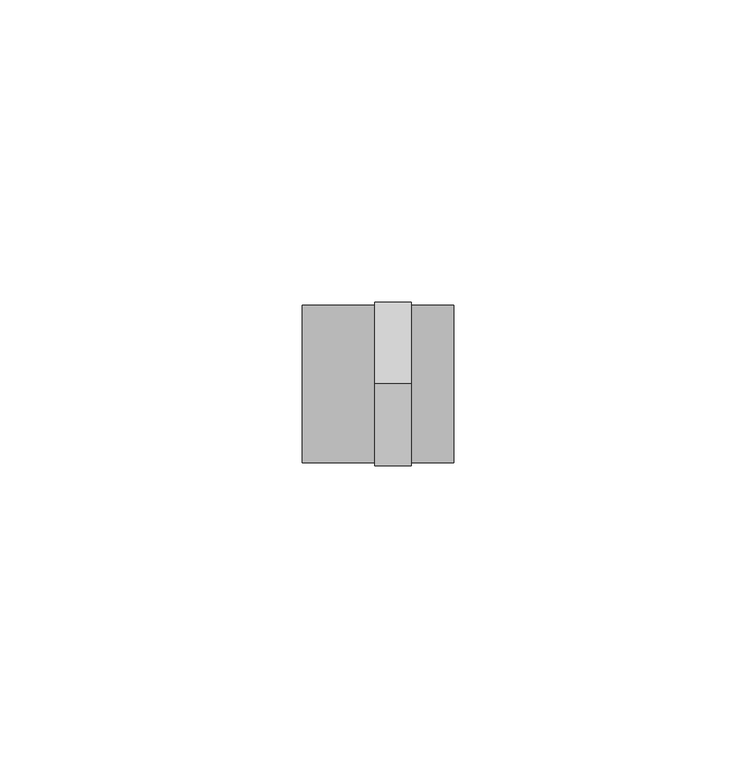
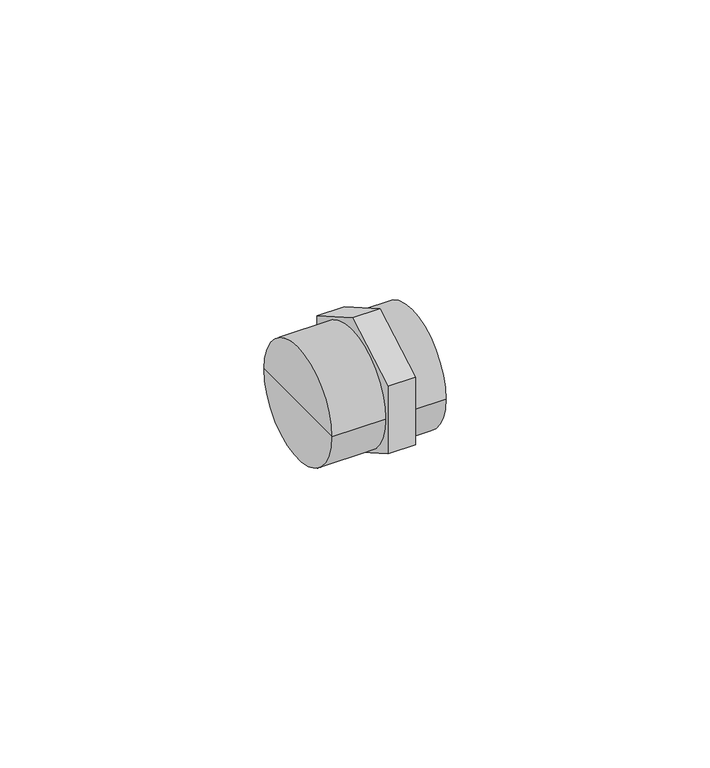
"""IFC4 building model written with IfcOpenShell, lengths in millimetres: pipe fitting geometry, NLRS_50_PIF_UN_adapter Euroconus, met buitendraad_geb : DN15-20/ G3/4'' / d20-26/ G3/4''."""

import ifcopenshell
import ifcopenshell.guid

model = None  # the IFC model being written
_history = None  # IfcOwnerHistory: only IFC2X3 demands one
_inside = {}  # id of a spatial element -> (the spatial element, [elements in it])
_under = {}  # id of a project, library or spatial element -> (it, [spatial elements below it])
_declared = {}  # id of a project -> (the project, [libraries it declares])
_typed = {}  # id of a type object -> (the type object, [elements of that type])
_made_of = {}  # id of a material, layer set ... -> (it, [elements and type objects made of it])


def new_model(schema):
    """Start an empty IFC model of exactly this schema.

    Asked for "IFC4X3", IfcOpenShell would pick the latest addendum, in which some entities
    have other attributes; the version numbers below select the first issue.
    IFC2X3 requires an IfcOwnerHistory on every rooted entity: one is made here for all.
    """
    global model, _history
    if schema == "IFC4X3":
        model = ifcopenshell.file(schema_version=(4, 3, 0, 0))
    else:
        model = ifcopenshell.file(schema=schema)
    _inside.clear()
    _under.clear()
    _declared.clear()
    _typed.clear()
    _made_of.clear()
    _history = None
    if model.schema == "IFC2X3":
        org = make("IfcOrganization", Name="unknown")
        user = make(
            "IfcPersonAndOrganization",
            ThePerson=make("IfcPerson", FamilyName="unknown"),
            TheOrganization=org,
        )
        app = make(
            "IfcApplication",
            ApplicationDeveloper=org,
            Version="unknown",
            ApplicationFullName="unknown",
            ApplicationIdentifier="unknown",
        )
        _history = make(
            "IfcOwnerHistory",
            OwningUser=user,
            OwningApplication=app,
            ChangeAction="ADDED",
            CreationDate=0,
        )
    return model


def make(cls, **values):
    """One entity of the class cls with the attributes given. An attribute that is None is left unset."""
    return model.create_entity(
        cls, **{name: value for name, value in values.items() if value is not None}
    )


def rooted(cls, **values):
    """An entity with a GlobalId (a new one), such as an element, a storey or a relation."""
    return make(cls, GlobalId=ifcopenshell.guid.new(), OwnerHistory=_history, **values)


def si_unit(unit_type, name, prefix=None):
    """IfcSIUnit, for example si_unit("LENGTHUNIT", "METRE", prefix="MILLI")."""
    return make("IfcSIUnit", UnitType=unit_type, Prefix=prefix, Name=name)


def assignment(units):
    """IfcUnitAssignment: the units of a project."""
    return None if units is None else make("IfcUnitAssignment", Units=units)


def point(xyz):
    """IfcCartesianPoint."""
    return None if xyz is None else make("IfcCartesianPoint", Coordinates=xyz)


def direction(xyz):
    """IfcDirection."""
    return None if xyz is None else make("IfcDirection", DirectionRatios=xyz)


def frame(location, z_axis=None, x_axis=None):
    """IfcAxis2Placement3D, a coordinate frame: its origin and axes. An axis left out is left unset."""
    return make(
        "IfcAxis2Placement3D",
        Location=point(location),
        Axis=direction(z_axis),
        RefDirection=direction(x_axis),
    )


def origin():
    """The frame at (0, 0, 0) with its axes left unset."""
    return frame((0.0, 0.0, 0.0))


def place(relative_to, where):
    """IfcLocalPlacement: puts the frame where relative to a parent placement (None: the world)."""
    return make(
        "IfcLocalPlacement", PlacementRelTo=relative_to, RelativePlacement=where
    )


def context(
    kind, dimensions, precision=None, world=None, true_north=None, identifier=None
):
    """IfcGeometricRepresentationContext, for example the 3D "Model" context."""
    return make(
        "IfcGeometricRepresentationContext",
        ContextIdentifier=identifier,
        ContextType=kind,
        CoordinateSpaceDimension=dimensions,
        Precision=precision,
        WorldCoordinateSystem=world,
        TrueNorth=true_north,
    )


def project(units=None, contexts=None):
    """IfcProject with its units and contexts."""
    return rooted(
        "IfcProject",
        Name="project",
        RepresentationContexts=contexts,
        UnitsInContext=assignment(units),
    )


def spatial(cls, under=None, at=None, **own):
    """A site, building, storey or space (cls), placed at a placement, below another one or the project."""
    s = rooted(cls, ObjectPlacement=at, **own)
    if under is not None:
        _under.setdefault(under.id(), (under, []))[1].append(s)
    return s


def polyline(points):
    """IfcPolyline through the points."""
    return make("IfcPolyline", Points=[point(p) for p in points])


def circle_curve(where, radius):
    """IfcCircle in the frame where."""
    return make("IfcCircle", Position=where, Radius=radius)


def outline(outer, holes=None, kind="AREA"):
    """IfcArbitraryClosedProfileDef: a profile drawn as a closed curve; with holes, ...WithVoids."""
    if holes is None:
        return make("IfcArbitraryClosedProfileDef", ProfileType=kind, OuterCurve=outer)
    return make(
        "IfcArbitraryProfileDefWithVoids",
        ProfileType=kind,
        OuterCurve=outer,
        InnerCurves=holes,
    )


def extrude(swept, where, along, depth):
    """IfcExtrudedAreaSolid: the profile swept, set in the frame where, extruded along a direction by depth."""
    return make(
        "IfcExtrudedAreaSolid",
        SweptArea=swept,
        Position=where,
        ExtrudedDirection=direction(along),
        Depth=depth,
    )


def shape(context_of_items, identifier, shape_type, items):
    """IfcShapeRepresentation: the items that make up one representation, for example the "Body"."""
    return make(
        "IfcShapeRepresentation",
        ContextOfItems=context_of_items,
        RepresentationIdentifier=identifier,
        RepresentationType=shape_type,
        Items=items,
    )


def source(mapping_origin, context_of_items, identifier, shape_type, items):
    """IfcRepresentationMap: a shape defined once, which mapped items show again and again."""
    return make(
        "IfcRepresentationMap",
        MappingOrigin=mapping_origin,
        MappedRepresentation=shape(context_of_items, identifier, shape_type, items),
    )


def transform(
    local_origin,
    x_axis=None,
    y_axis=None,
    z_axis=None,
    scale=None,
    scale2=None,
    scale3=None,
    uniform=True,
):
    """IfcCartesianTransformationOperator3D, or its non-uniform kind. x_axis, y_axis, z_axis: its Axis1, 2, 3."""
    if uniform:
        return make(
            "IfcCartesianTransformationOperator3D",
            Axis1=direction(x_axis),
            Axis2=direction(y_axis),
            LocalOrigin=point(local_origin),
            Scale=scale,
            Axis3=direction(z_axis),
        )
    return make(
        "IfcCartesianTransformationOperator3DnonUniform",
        Axis1=direction(x_axis),
        Axis2=direction(y_axis),
        LocalOrigin=point(local_origin),
        Scale=scale,
        Axis3=direction(z_axis),
        Scale2=scale2,
        Scale3=scale3,
    )


def mapped(mapping_source, mapping_target):
    """IfcMappedItem: shows the shape of a source again, moved by a transform."""
    return make(
        "IfcMappedItem", MappingSource=mapping_source, MappingTarget=mapping_target
    )


def made_of(thing, what):
    """Note that an element or type object is made of a material, layer set ...; save() writes the relation."""
    if what is not None:
        _made_of.setdefault(what.id(), (what, []))[1].append(thing)
    return thing


def element(
    cls,
    number,
    at=None,
    inside=None,
    cuts=None,
    type_object=None,
    material=None,
    context=None,
    identifier="Body",
    shape_type=None,
    held_by="IfcProductDefinitionShape",
    body=None,
    shapes=None,
    **own,
):
    """One element of the class cls, such as IfcWall. Its Tag is "e" and its number.

    at: its placement. inside: the storey or other place that contains it. cuts: it is an
    opening in that element (IfcRelVoidsElement). A single representation is given by context,
    identifier, shape_type and body (its items); several are given by shapes. held_by: the class
    of the entity that holds the representations. save() writes the other relations.
    """
    e = rooted(cls, Tag="e%d" % number, ObjectPlacement=at, **own)
    if body is not None:
        shapes = [shape(context, identifier, shape_type, body)]
    if shapes is not None:
        e.Representation = make(held_by, Representations=shapes)
    if inside is not None:
        _inside.setdefault(inside.id(), (inside, []))[1].append(e)
    if cuts is not None:
        rooted(
            "IfcRelVoidsElement", RelatingBuildingElement=cuts, RelatedOpeningElement=e
        )
    if type_object is not None:
        _typed.setdefault(type_object.id(), (type_object, []))[1].append(e)
    return made_of(e, material)


def aggregate(whole, parts):
    """IfcRelAggregates: a whole, such as a stair, and the parts it consists of."""
    return rooted("IfcRelAggregates", RelatingObject=whole, RelatedObjects=parts)


def save(model, path):
    """Write the relations noted so far, then the file.

    IfcRelAggregates (storeys below a building ...), IfcRelContainedInSpatialStructure (elements
    in a storey), IfcRelDefinesByType, IfcRelAssociatesMaterial and IfcRelDeclares: one each for
    every whole, place, type object, material and project.
    """
    for whole, parts in _under.values():
        aggregate(whole, parts)
    for where, things in _inside.values():
        rooted(
            "IfcRelContainedInSpatialStructure",
            RelatedElements=things,
            RelatingStructure=where,
        )
    for kind, things in _typed.values():
        rooted("IfcRelDefinesByType", RelatedObjects=things, RelatingType=kind)
    for what, things in _made_of.values():
        rooted("IfcRelAssociatesMaterial", RelatedObjects=things, RelatingMaterial=what)
    for by, libraries in _declared.values():
        rooted("IfcRelDeclares", RelatingContext=by, RelatedDefinitions=libraries)
    model.write(path)


def plane_surface(at):
    """IfcPlane: the flat surface through the origin of the frame at, square to its z axis."""
    return make("IfcPlane", Position=at)


def cylinder_surface(at, radius):
    """IfcCylindricalSurface: all points at the distance radius from the z axis of the frame at."""
    return make("IfcCylindricalSurface", Position=at, Radius=radius)


def advanced_brep(points, edges, surfaces, faces):
    """IfcAdvancedBrep: a solid bounded by faces that lie on surfaces and meet in shared edges.

    An edge is (start, end): straight between two places in points (the first is 0);
    or (start, end, curve); or (start, end, curve, False) where it runs against its curve.
    A face is (place in surfaces, loops), or (place, loops, False) where it looks against
    its surface's normal. A loop lists edges by number (the first is 1), with a minus sign
    where the edge is run from its end to its start. The first loop is the outer one.
    """
    corners = [point(p) for p in points]
    vertices = [make("IfcVertexPoint", VertexGeometry=c) for c in corners]
    made = []
    for start, end, *more in edges:
        made.append(
            make(
                "IfcEdgeCurve",
                EdgeStart=vertices[start],
                EdgeEnd=vertices[end],
                EdgeGeometry=more[0] if more else make("IfcPolyline", Points=[corners[start], corners[end]]),
                SameSense=more[1] if len(more) > 1 else True,
            )
        )
    hull = []
    for where, loops, *sense in faces:
        bounds = []
        for j, loop in enumerate(loops):
            ring = [make("IfcOrientedEdge", EdgeElement=made[abs(k) - 1], Orientation=k > 0) for k in loop]
            bounds.append(
                make(
                    "IfcFaceOuterBound" if j == 0 else "IfcFaceBound",
                    Bound=make("IfcEdgeLoop", EdgeList=ring),
                    Orientation=True,
                )
            )
        hull.append(make("IfcAdvancedFace", Bounds=bounds, FaceSurface=surfaces[where], SameSense=sense[0] if sense else True))
    return make("IfcAdvancedBrep", Outer=make("IfcClosedShell", CfsFaces=hull))


def pipe_fitting_a43a226b(model_context):
    return source(origin(), model_context, "Body", "SolidModel", [
        extrude(outline(polyline([(13.5, -7.7942286), (0.0, -15.5884573), (-13.5, -7.7942286), (-13.5, 7.7942286), (0.0, 15.5884573), (13.5, 7.7942286), (13.5, -7.7942286)])), frame((-0.5, 0.0, 0.0), z_axis=(1.0, 0.0, 0.0), x_axis=(0.0, 1.0, 0.0)), (0.0, 0.0, 1.0), 6.0),
        advanced_brep(
        [(5.5, -13.0, 0.0), (5.5, 13.0, 0.0), (12.5, 13.0, 0.0), (12.5, -13.0, 0.0), (5.5, 0.0, 0.0), (12.5, 0.0, 0.0)],
        [
            (0, 1, circle_curve(frame((5.5, 0.0, 0.0), z_axis=(1.0, 0.0, 0.0), x_axis=(0.0, 1.0, 0.0)), 13.0)),
            (1, 2),
            (2, 3, circle_curve(frame((12.5, 0.0, 0.0), z_axis=(-1.0, 0.0, 0.0), x_axis=(0.0, 1.0, 0.0)), 13.0)),
            (3, 0),
            (1, 0, circle_curve(frame((5.5, 0.0, 0.0), z_axis=(1.0, 0.0, 0.0), x_axis=(0.0, 1.0, 0.0)), 13.0)),
            (3, 2, circle_curve(frame((12.5, 0.0, 0.0), z_axis=(-1.0, 0.0, 0.0), x_axis=(0.0, 1.0, 0.0)), 13.0)),
            (0, 4),
            (4, 1),
            (2, 5),
            (5, 3),
        ],
        [
            cylinder_surface(frame((31.2434293, 0.0, 0.0), z_axis=(-1.0, 0.0, 0.0), x_axis=(0.0, 1.0, 0.0)), 13.0),
            plane_surface(frame((5.5, 0.0, 0.0), z_axis=(-1.0, 0.0, 0.0), x_axis=(0.0, 1.0, 0.0))),
            plane_surface(frame((12.5, 0.0, 0.0), z_axis=(1.0, 0.0, 0.0), x_axis=(0.0, 1.0, 0.0))),
        ],
        [
            (0, [[1, 2, 3, 4]]),
            (0, [[-2, 5, -4, 6]]),
            (1, [[-1, 7, 8]]),
            (1, [[-5, -8, -7]]),
            (2, [[-3, 9, 10]]),
            (2, [[-6, -10, -9]]),
        ],
    ),
        advanced_brep(
        [(-12.5, -13.0, 0.0), (-12.5, 13.0, 0.0), (-0.5, 13.0, 0.0), (-0.5, -13.0, 0.0), (-12.5, 0.0, 0.0), (-0.5, 0.0, 0.0)],
        [
            (0, 1, circle_curve(frame((-12.5, 0.0, 0.0), z_axis=(1.0, 0.0, 0.0), x_axis=(0.0, 1.0, 0.0)), 13.0)),
            (1, 2),
            (2, 3, circle_curve(frame((-0.5, 0.0, 0.0), z_axis=(-1.0, 0.0, 0.0), x_axis=(0.0, 1.0, 0.0)), 13.0)),
            (3, 0),
            (1, 0, circle_curve(frame((-12.5, 0.0, 0.0), z_axis=(1.0, 0.0, 0.0), x_axis=(0.0, 1.0, 0.0)), 13.0)),
            (3, 2, circle_curve(frame((-0.5, 0.0, 0.0), z_axis=(-1.0, 0.0, 0.0), x_axis=(0.0, 1.0, 0.0)), 13.0)),
            (0, 4),
            (4, 1),
            (2, 5),
            (5, 3),
        ],
        [
            cylinder_surface(frame((10.8680811, 0.0, 0.0), z_axis=(-1.0, 0.0, 0.0), x_axis=(0.0, 1.0, 0.0)), 13.0),
            plane_surface(frame((-12.5, 0.0, 0.0), z_axis=(-1.0, 0.0, 0.0), x_axis=(0.0, 1.0, 0.0))),
            plane_surface(frame((-0.5, 0.0, 0.0), z_axis=(1.0, 0.0, 0.0), x_axis=(0.0, 1.0, 0.0))),
        ],
        [
            (0, [[1, 2, 3, 4]]),
            (0, [[-2, 5, -4, 6]]),
            (1, [[-1, 7, 8]]),
            (1, [[-5, -8, -7]]),
            (2, [[-3, 9, 10]]),
            (2, [[-6, -10, -9]]),
        ],
    ),
    ])


if __name__ == "__main__":
    model = new_model("IFC4")
    model_context = context("Model", 3, world=origin())
    ifc_project = project(units=[si_unit("LENGTHUNIT", "METRE", prefix="MILLI")], contexts=[model_context])
    site = spatial("IfcSite", under=ifc_project)
    building = spatial("IfcBuilding", under=site)
    placement = place(None, origin())
    pipe_fitting_shape = pipe_fitting_a43a226b(model_context)
    element("IfcPipeFitting", 1, ObjectType="NLRS_50_PIF_UN_adapter Euroconus, met buitendraad_geb : DN15-20/ G3/4'' / d20-26/ G3/4''", at=placement, inside=building, context=model_context, shape_type="MappedRepresentation", body=[
        mapped(pipe_fitting_shape, transform((0.0, 0.0, 0.0), x_axis=(1.0, 0.0, 0.0), y_axis=(0.0, 1.0, 0.0), z_axis=(0.0, 0.0, 1.0))),
    ])
    save(model, "model.ifc")
